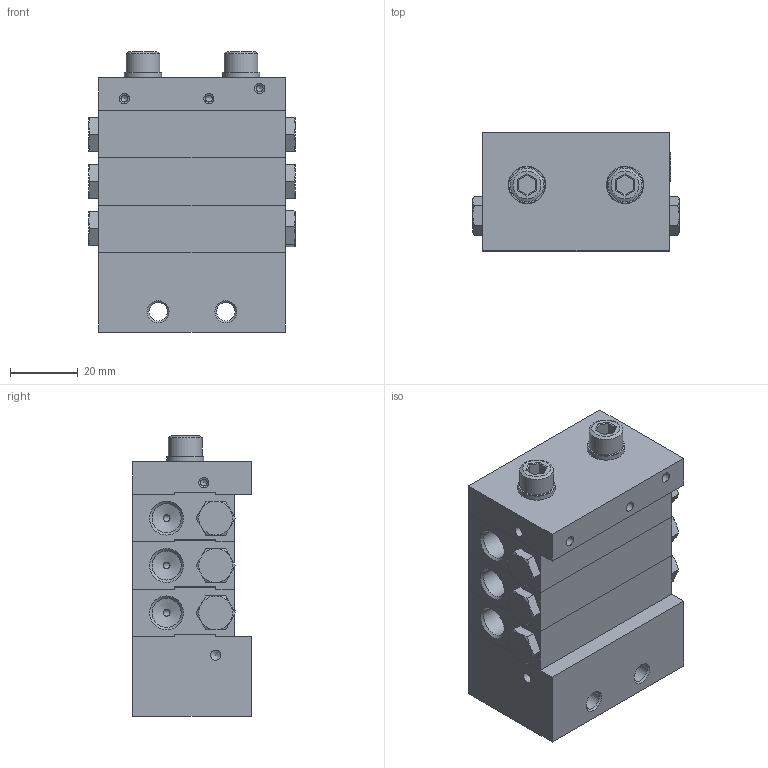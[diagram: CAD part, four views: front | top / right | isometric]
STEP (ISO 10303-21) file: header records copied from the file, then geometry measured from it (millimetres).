
FILE_DESCRIPTION (( 'STEP AP214' ), '1' );
FILE_NAME ('STW_XV_5_Auslässe.STEP', '2025-09-16T13:32:09', ( '' ), ( '' ), 'SwSTEP 2.0', 'SolidWorks 2022', '' );
FILE_SCHEMA (( 'AUTOMOTIVE_DESIGN' ));
Length unit declared in the file: millimetre
Products named in the file (11): STW_XV_ENGANG; STW_XV_END; Verschlussstopfen_1_8; STW_XV_Kolbenanschlag; M6X65_DIN_912; STW_XV_Verbindungsstopen; O_RING_3X1; STW_XV_5_Auslässe; U_Scheibe_6; STW_XV_MITTEL_1
Assembly tree (29 placements, depth 2):
  STW_XV_5_Auslässe
    STW_XV_ENGANG
    O_RING_3X1  x4
    STW_XV_MITTEL_1  x3
    STW_XV_END
    Verschlussstopfen_1_8  x6
    STW_XV_Kolbenanschlag  x6
    STW_XV_Verbindungsstopen  x3
    M6X65_DIN_912  x2
    U_Scheibe_6  x2
    Verschlussstopfen_1_8
Bounding box: 61 x 35 x 82.8 mm (x, y, z)
Volume: 125818.2 mm3; surface area: 55635.2 mm2
Topology: 29 solids, 29 shells, 1123 faces, 2933 edges, 1878 vertices
Faces by surface type: plane 541, cylinder 275, cone 201, bspline 96, torus 10
Full cylindrical faces by diameter (mm): 2 x89, 3 x7, 5 x38, 5.5 x2, 5.9 x2, 6 x2, 6.2 x8, 6.4 x2, 6.5 x6, 7 x6, 8 x6, 8.4 x3, 8.6 x15, 9 x7, 9.7 x7, 9.73 x3, 10 x8, 11 x2, 15 x1
Entity records: 34559 total; most frequent: CARTESIAN_POINT 15274, ORIENTED_EDGE 2596, DIRECTION 2167, EDGE_CURVE 1298, VERTEX_POINT 919, EDGE_LOOP 845, AXIS2_PLACEMENT_3D 739, LINE 689
